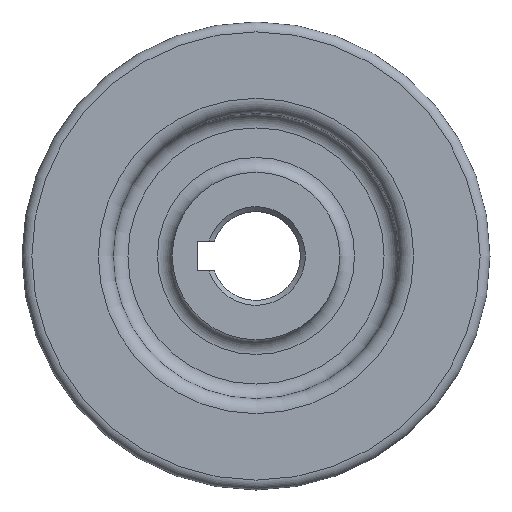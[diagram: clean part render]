
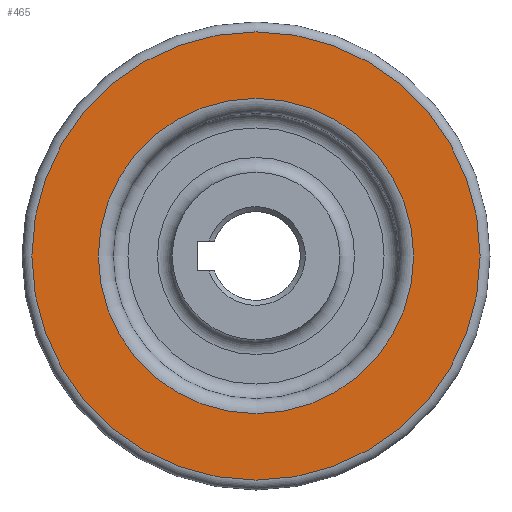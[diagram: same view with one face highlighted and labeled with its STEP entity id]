
A CAD part, left-side view. The second image highlights one B-rep face of the part: STEP entity #465.
In plain terms, the highlighted planar face has unit normal (-1, 0, 0).
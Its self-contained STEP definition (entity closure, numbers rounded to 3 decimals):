
#21=FACE_BOUND('',#112,.T.);
#27=PLANE('',#531);
#80=FACE_OUTER_BOUND('',#111,.T.);
#111=EDGE_LOOP('',(#332));
#112=EDGE_LOOP('',(#333));
#151=CIRCLE('',#527,45.5);
#154=CIRCLE('',#532,32.);
#200=VERTEX_POINT('',#798);
#203=VERTEX_POINT('',#808);
#249=EDGE_CURVE('',#200,#200,#151,.T.);
#253=EDGE_CURVE('',#203,#203,#154,.T.);
#332=ORIENTED_EDGE('',*,*,#249,.F.);
#333=ORIENTED_EDGE('',*,*,#253,.F.);
#465=ADVANCED_FACE('',(#80,#21),#27,.T.);
#527=AXIS2_PLACEMENT_3D('',#800,#625,#626);
#531=AXIS2_PLACEMENT_3D('',#807,#634,#635);
#532=AXIS2_PLACEMENT_3D('',#809,#636,#637);
#625=DIRECTION('center_axis',(1.,0.,0.));
#626=DIRECTION('ref_axis',(0.,-1.,0.));
#634=DIRECTION('center_axis',(-1.,0.,0.));
#635=DIRECTION('ref_axis',(0.,0.,1.));
#636=DIRECTION('center_axis',(-1.,0.,0.));
#637=DIRECTION('ref_axis',(0.,-1.,0.));
#798=CARTESIAN_POINT('',(7.,0.,45.5));
#800=CARTESIAN_POINT('Origin',(7.,0.,0.));
#807=CARTESIAN_POINT('Origin',(7.,47.5,0.));
#808=CARTESIAN_POINT('',(7.,0.,32.));
#809=CARTESIAN_POINT('Origin',(7.,0.,0.));
